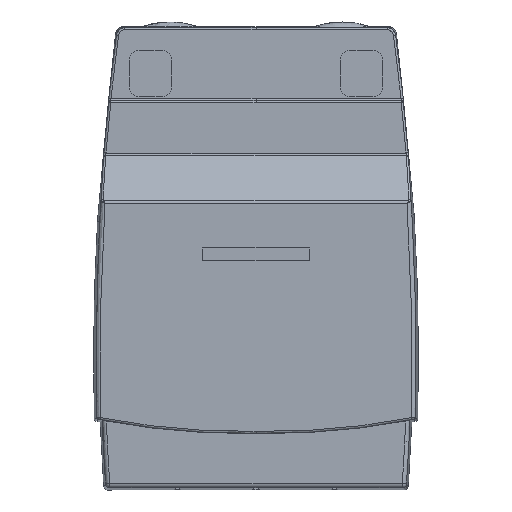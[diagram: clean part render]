
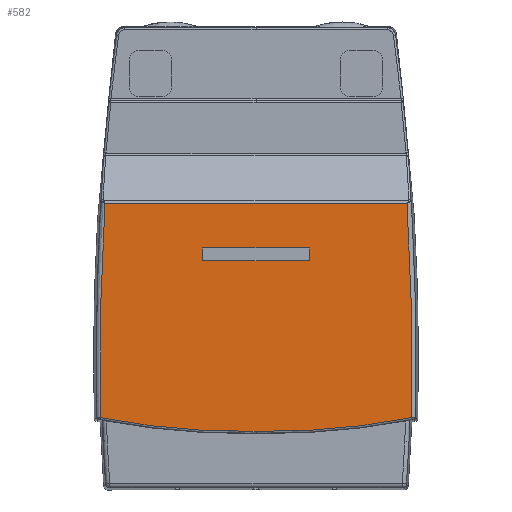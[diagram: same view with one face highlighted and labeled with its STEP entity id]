
A CAD part, front view. The second image highlights one B-rep face of the part: STEP entity #582.
In plain terms, the highlighted planar face has unit normal (0, -1, 0).
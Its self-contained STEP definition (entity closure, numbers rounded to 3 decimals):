
#168=FACE_BOUND('',#1083,.T.);
#169=FACE_BOUND('',#1084,.T.);
#203=LINE('',#4782,#392);
#204=LINE('',#4788,#393);
#205=LINE('',#4791,#394);
#206=LINE('',#4793,#395);
#207=LINE('',#4795,#396);
#392=VECTOR('',#3756,1.);
#393=VECTOR('',#3757,1.);
#394=VECTOR('',#3758,1.);
#395=VECTOR('',#3759,1.);
#396=VECTOR('',#3760,1.);
#582=ADVANCED_FACE('',(#168,#169),#795,.T.);
#795=PLANE('',#3437);
#1083=EDGE_LOOP('',(#1524,#1525,#1526,#1527,#1528));
#1084=EDGE_LOOP('',(#1529,#1530,#1531,#1532));
#1301=(
BOUNDED_CURVE()
B_SPLINE_CURVE(3,(#4784,#4785,#4786,#4787),.UNSPECIFIED.,.F.,.F.)
B_SPLINE_CURVE_WITH_KNOTS((4,4),(0.,1.),.UNSPECIFIED.)
CURVE()
GEOMETRIC_REPRESENTATION_ITEM()
RATIONAL_B_SPLINE_CURVE((1.,1.,1.,1.))
REPRESENTATION_ITEM('')
);
#1349=CIRCLE('',#3435,174.018);
#1350=CIRCLE('',#3436,174.018);
#1524=ORIENTED_EDGE('',*,*,#2831,.F.);
#1525=ORIENTED_EDGE('',*,*,#2832,.T.);
#1526=ORIENTED_EDGE('',*,*,#2833,.T.);
#1527=ORIENTED_EDGE('',*,*,#2834,.T.);
#1528=ORIENTED_EDGE('',*,*,#2835,.F.);
#1529=ORIENTED_EDGE('',*,*,#2836,.T.);
#1530=ORIENTED_EDGE('',*,*,#2837,.T.);
#1531=ORIENTED_EDGE('',*,*,#2838,.F.);
#1532=ORIENTED_EDGE('',*,*,#2839,.T.);
#2524=VERTEX_POINT('',#4773);
#2525=VERTEX_POINT('',#4774);
#2526=VERTEX_POINT('',#4776);
#2527=VERTEX_POINT('',#4781);
#2528=VERTEX_POINT('',#4783);
#2529=VERTEX_POINT('',#4789);
#2530=VERTEX_POINT('',#4790);
#2531=VERTEX_POINT('',#4792);
#2532=VERTEX_POINT('',#4794);
#2831=EDGE_CURVE('',#2524,#2525,#1349,.T.);
#2832=EDGE_CURVE('',#2524,#2526,#1350,.T.);
#2833=EDGE_CURVE('',#2526,#2527,#3316,.T.);
#2834=EDGE_CURVE('',#2527,#2528,#203,.T.);
#2835=EDGE_CURVE('',#2525,#2528,#1301,.T.);
#2836=EDGE_CURVE('',#2529,#2530,#204,.T.);
#2837=EDGE_CURVE('',#2530,#2531,#205,.T.);
#2838=EDGE_CURVE('',#2532,#2531,#206,.T.);
#2839=EDGE_CURVE('',#2532,#2529,#207,.T.);
#3316=B_SPLINE_CURVE_WITH_KNOTS('',3,(#4777,#4778,#4779,#4780),
 .UNSPECIFIED.,.F.,.F.,(4,4),(0.,1.),.UNSPECIFIED.);
#3435=AXIS2_PLACEMENT_3D('',#4772,#3752,#3753);
#3436=AXIS2_PLACEMENT_3D('',#4775,#3754,#3755);
#3437=AXIS2_PLACEMENT_3D('',#4796,#3761,#3762);
#3752=DIRECTION('',(0.,1.,0.));
#3753=DIRECTION('',(0.,0.,1.));
#3754=DIRECTION('',(0.,-1.,0.));
#3755=DIRECTION('',(0.,0.,1.));
#3756=DIRECTION('',(-1.,0.,0.));
#3757=DIRECTION('',(-1.,0.,0.));
#3758=DIRECTION('',(0.,0.,1.));
#3759=DIRECTION('',(-1.,0.,0.));
#3760=DIRECTION('',(0.,0.,-1.));
#3761=DIRECTION('',(0.,-1.,0.));
#3762=DIRECTION('',(0.,0.,-1.));
#4772=CARTESIAN_POINT('',(-3.112,-29.5,133.82));
#4773=CARTESIAN_POINT('',(0.,-29.5,-40.17));
#4774=CARTESIAN_POINT('',(-36.58,-29.5,-36.95));
#4775=CARTESIAN_POINT('',(3.113,-29.5,133.82));
#4776=CARTESIAN_POINT('',(36.581,-29.5,-36.95));
#4777=CARTESIAN_POINT('',(36.581,-29.5,-36.95));
#4778=CARTESIAN_POINT('',(36.982,-29.5,-20.139));
#4779=CARTESIAN_POINT('',(36.638,-29.5,-3.344));
#4780=CARTESIAN_POINT('',(35.55,-29.5,13.435));
#4781=CARTESIAN_POINT('',(35.55,-29.5,13.435));
#4782=CARTESIAN_POINT('',(-9.252,-29.5,13.435));
#4783=CARTESIAN_POINT('',(-35.549,-29.5,13.435));
#4784=CARTESIAN_POINT('',(-36.58,-29.5,-36.95));
#4785=CARTESIAN_POINT('',(-36.982,-29.5,-20.12));
#4786=CARTESIAN_POINT('',(-36.636,-29.5,-3.324));
#4787=CARTESIAN_POINT('',(-35.549,-29.5,13.435));
#4788=CARTESIAN_POINT('',(-9.252,-29.5,0.));
#4789=CARTESIAN_POINT('',(12.5,-29.5,0.));
#4790=CARTESIAN_POINT('',(-12.5,-29.5,0.));
#4791=CARTESIAN_POINT('',(-12.5,-29.5,-27.107));
#4792=CARTESIAN_POINT('',(-12.5,-29.5,3.));
#4793=CARTESIAN_POINT('',(-9.252,-29.5,3.));
#4794=CARTESIAN_POINT('',(12.5,-29.5,3.));
#4795=CARTESIAN_POINT('',(12.5,-29.5,-27.107));
#4796=CARTESIAN_POINT('',(-9.252,-29.5,-27.107));
